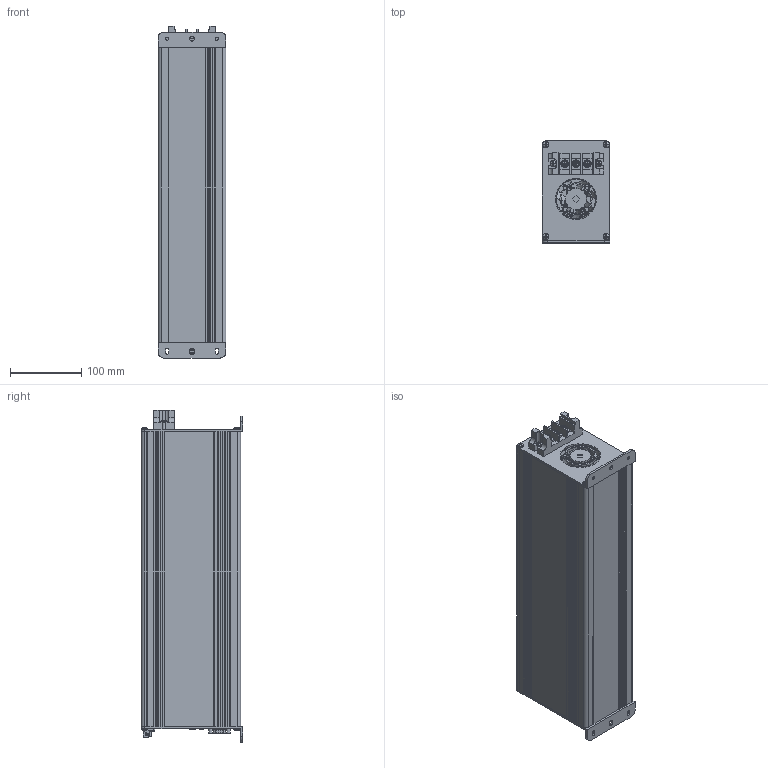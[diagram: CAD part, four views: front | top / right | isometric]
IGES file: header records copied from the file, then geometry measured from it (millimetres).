
Global section: file name: DV415COM; native system: Autodesk Inventor 2021; preprocessor: unknown; author: eunsol jang; date: 20220616.125522; units: inch
Bounding box: 95.5 x 142.98 x 467.5 mm (x, y, z)
Volume: 747737 mm3; surface area: 525091 mm2
Topology: 3 solids, 3 shells, 2640 faces, 8412 edges, 6035 vertices
Faces by surface type: bspline 2640
